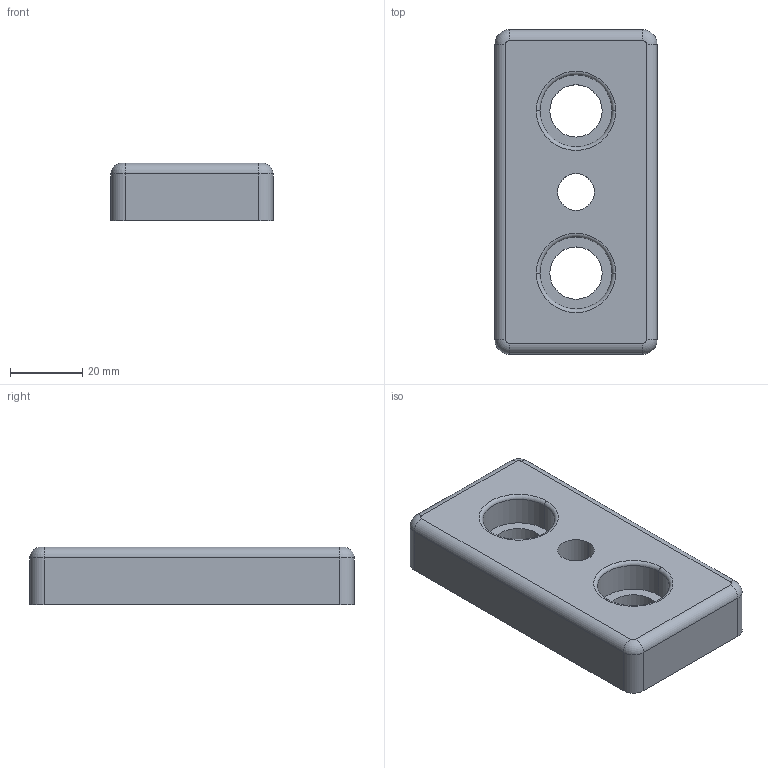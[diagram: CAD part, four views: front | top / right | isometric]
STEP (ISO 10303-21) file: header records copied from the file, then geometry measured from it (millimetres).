
FILE_DESCRIPTION (( 'STEP AP203' ), '1' );
FILE_NAME ('0110FP109045M12.STEP', '2024-09-06T09:27:42', ( 'Windows-Benutzer' ), ( '' ), 'SwSTEP 2.0', 'SolidWorks 2024', '' );
FILE_SCHEMA (( 'CONFIG_CONTROL_DESIGN' ));
Length unit declared in the file: millimetre
Products named in the file (1): 0110FP109045M12
Bounding box: 45 x 90 x 16 mm (x, y, z)
Volume: 39144.7 mm3; surface area: 19033.9 mm2
Topology: 1 solids, 1 shells, 104 faces, 270 edges, 176 vertices
Faces by surface type: cylinder 64, plane 32, torus 8
Entity records: 3327 total; most frequent: DIRECTION 620, CARTESIAN_POINT 551, ORIENTED_EDGE 540, EDGE_CURVE 270, AXIS2_PLACEMENT_3D 245, VERTEX_POINT 176, CIRCLE 140, VECTOR 130
